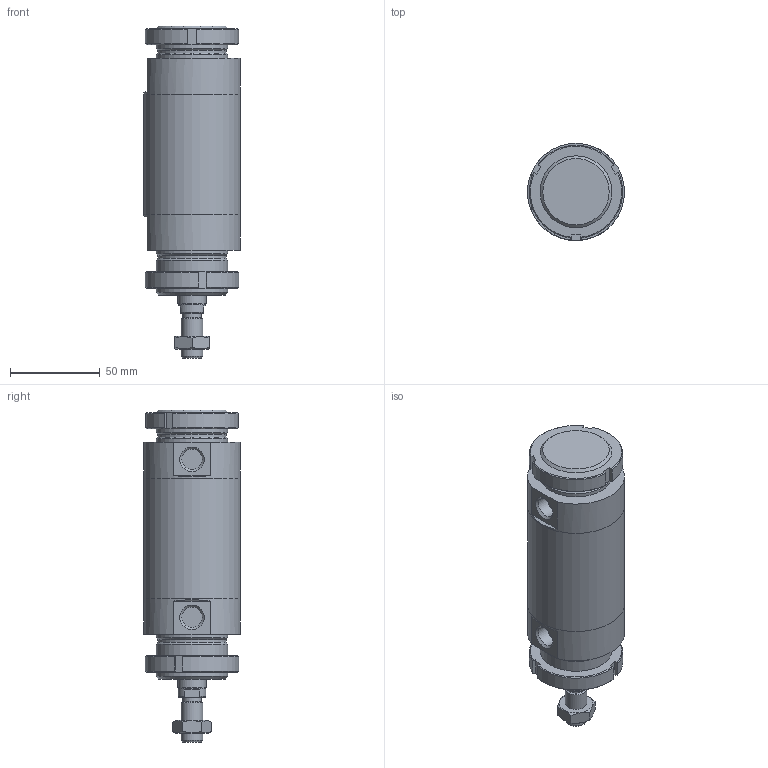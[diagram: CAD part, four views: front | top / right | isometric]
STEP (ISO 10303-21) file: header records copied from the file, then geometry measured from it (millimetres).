
FILE_DESCRIPTION(/* description */ (''),/* implementation_level */ '2;1');
FILE_NAME(/* name */ 'I:\Area Tecnica\Documenti\A-Manieri\_Inventor\12X\12X#C_###_####_#_#\12XAC_050_0025_#_#.stp',/* time_stamp */ '2015-04-28T15:19:31+02:00',/* author */ ('maniean1'),/* organization */ ('Pneumax S.p.A.'),/* preprocessor_version */ 'ST-DEVELOPER v15.2',/* originating_system */ 'Autodesk Inventor 2014',/* authorisation */ '');
FILE_SCHEMA (('AUTOMOTIVE_DESIGN { 1 0 10303 214 3 1 1 }'));
Length unit declared in the file: millimetre
Products named in the file (7): C1250_619-0025; 12X50_604; S12X50_0025; 12X_50_11; 12X50_620; G12X_050_05; 12XAC_050_0025_#_#
Bounding box: 54 x 54 x 185 mm (x, y, z)
Volume: 274616.5 mm3; surface area: 71131.5 mm2
Topology: 7 solids, 7 shells, 106 faces, 240 edges, 154 vertices
Faces by surface type: plane 52, cylinder 27, cone 27
Full cylindrical faces by diameter (mm): 10.2 x1, 11.4 x2, 12 x2, 14 x1, 15.6 x1, 16 x1, 38.2 x2, 40 x6, 50 x2, 54 x3
Entity records: 2243 total; most frequent: CARTESIAN_POINT 413, DIRECTION 382, ORIENTED_EDGE 292, AXIS2_PLACEMENT_3D 165, EDGE_CURVE 146, EDGE_LOOP 132, VERTEX_POINT 112, ADVANCED_FACE 85
